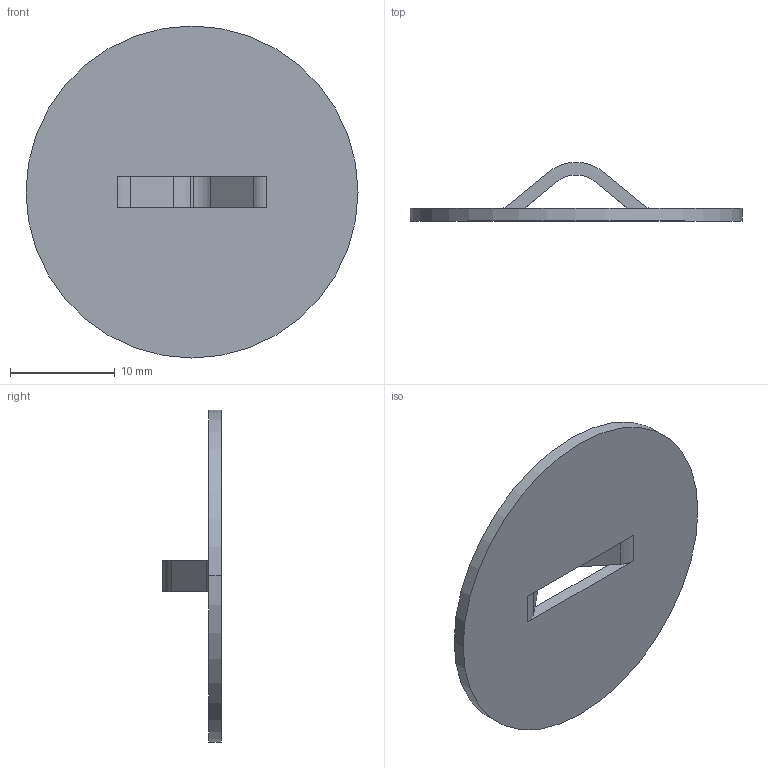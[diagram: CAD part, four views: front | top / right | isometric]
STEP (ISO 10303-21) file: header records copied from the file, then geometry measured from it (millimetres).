
FILE_DESCRIPTION (( 'STEP AP203' ), '1' );
FILE_NAME ('1052649-10 -BRIDGE LANCE SGL .542X.118X.173HIGH .048 MAT.STEP', '2024-11-18T17:19:28', ( '' ), ( '' ), 'SwSTEP 2.0', 'SolidWorks 2024', '' );
FILE_SCHEMA (( 'CONFIG_CONTROL_DESIGN' ));
Length unit declared in the file: inch
Products named in the file (1): 1052649-10 -BRIDGE LANCE SGL .542X.118X.173HIGH .048 MAT
Bounding box: 31.75 x 5.61 x 31.75 mm (x, y, z)
Volume: 975.8 mm3; surface area: 1785.4 mm2
Topology: 1 solids, 1 shells, 22 faces, 62 edges, 40 vertices
Faces by surface type: plane 12, cylinder 10
Entity records: 801 total; most frequent: DIRECTION 128, CARTESIAN_POINT 125, ORIENTED_EDGE 124, EDGE_CURVE 62, AXIS2_PLACEMENT_3D 43, LINE 42, VECTOR 42, VERTEX_POINT 40
